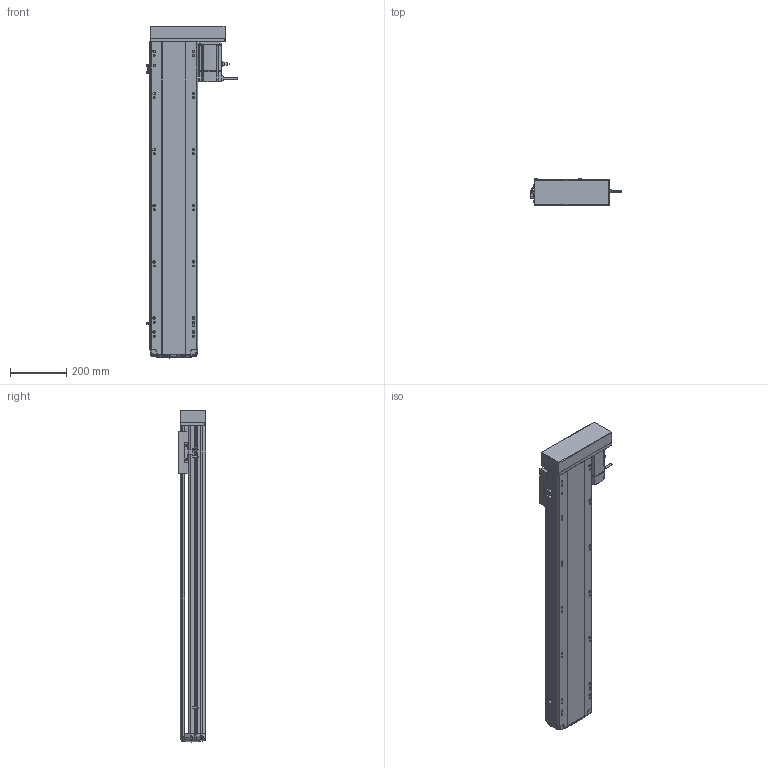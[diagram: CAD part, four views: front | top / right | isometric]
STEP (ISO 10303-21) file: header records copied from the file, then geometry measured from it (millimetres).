
FILE_DESCRIPTION (( 'STEP AP214' ), '1' );
FILE_NAME ('RTH17-XX-900-L-M75-C4.STEP', '2025-10-24T10:34:54', ( '' ), ( '' ), 'SwSTEP 2.0', 'SolidWorks 2018', '' );
FILE_SCHEMA (( 'AUTOMOTIVE_DESIGN' ));
Length unit declared in the file: millimetre
Products named in the file (10): RTH17-XX-900-L-M75-C4; N_OMRON EE-SX672 換覜ん^RTH17-XX-XX-L-M75-C4ㄗ源最宒ㄘ; N_RTH17-M-007上盖^RTH17-XX-XX-L-M75-C4（方程式）; N_RTH-L-012 感应片(外置)^RTH17-XX-XX-L-M75-C4（方程式）; N_RTH17-GY-001P^RTH17-XX-XX-L-M75-C4（方程式）; N_M75^RTH17-XX-XX-L-M75-C4（方程式）; N_RTH17-E-004丝杆螺母连接座^RTH17-XX-XX-L-M75-C4（方程式）; N_RTH17-L-008-P75电机安装板左转折^RTH17-XX-XX-L-M75-C4（方程式）; N_RTH17-L-018盖子^RTH17-XX-XX-L-M75-C4（方程式）; N_RTH17-M-011底座^RTH17-XX-XX-L-M75-C4（方程式）
Assembly tree (11 placements, depth 2):
  RTH17-XX-900-L-M75-C4
    N_RTH17-M-011底座^RTH17-XX-XX-L-M75-C4（方程式）
    N_RTH17-M-007上盖^RTH17-XX-XX-L-M75-C4（方程式）
    N_M75^RTH17-XX-XX-L-M75-C4（方程式）
    N_OMRON EE-SX672 換覜ん^RTH17-XX-XX-L-M75-C4ㄗ源最宒ㄘ  x3
    N_RTH-L-012 感应片(外置)^RTH17-XX-XX-L-M75-C4（方程式）
    N_RTH17-L-008-P75电机安装板左转折^RTH17-XX-XX-L-M75-C4（方程式）
    N_RTH17-L-018盖子^RTH17-XX-XX-L-M75-C4（方程式）
    N_RTH17-E-004丝杆螺母连接座^RTH17-XX-XX-L-M75-C4（方程式）
    N_RTH17-GY-001P^RTH17-XX-XX-L-M75-C4（方程式）
Bounding box: 326.7 x 97 x 1182.99 mm (x, y, z)
Volume: 10560994.1 mm3; surface area: 1325448.1 mm2
Topology: 13 solids, 15 shells, 1773 faces, 4889 edges, 3166 vertices
Faces by surface type: plane 835, cylinder 524, bspline 377, cone 28, torus 9
Entity records: 51993 total; most frequent: CARTESIAN_POINT 20749, ORIENTED_EDGE 6802, DIRECTION 5653, EDGE_CURVE 3405, VERTEX_POINT 2202, AXIS2_PLACEMENT_3D 1909, LINE 1835, VECTOR 1835
